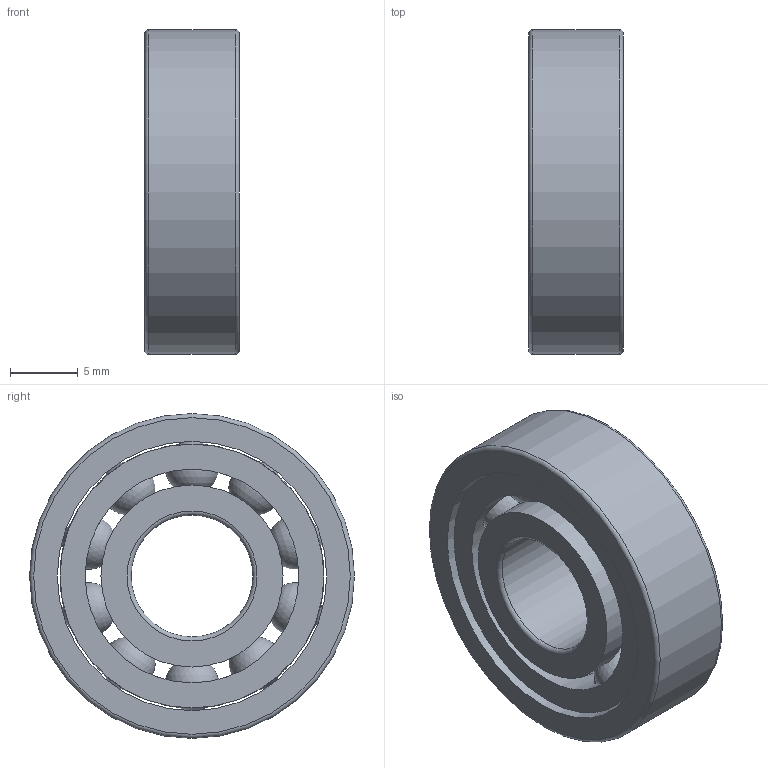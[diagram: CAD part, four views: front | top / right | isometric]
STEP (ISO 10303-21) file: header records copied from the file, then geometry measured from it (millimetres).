
FILE_DESCRIPTION(/* description */ (''),/* implementation_level */ '2;1');
FILE_NAME(/* name */ 'S_609_TA.step',/* time_stamp */ '2013-03-06T14:43:07+01:00',/* author */ ('Marian'),/* organization */ ('GMN'),/* preprocessor_version */ 'ST-DEVELOPER v11',/* originating_system */ 'SIEMENS UGS NX 6.0',/* authorisation */ '');
FILE_SCHEMA (('CONFIG_CONTROL_DESIGN'));
Length unit declared in the file: millimetre
Products named in the file (1): S_609_TA
Bounding box: 7 x 24 x 24 mm (x, y, z)
Volume: 2125.3 mm3; surface area: 3198.8 mm2
Topology: 13 solids, 13 shells, 40 faces, 98 edges, 62 vertices
Faces by surface type: cylinder 17, sphere 10, torus 6, plane 6, cone 1
Full cylindrical faces by diameter (mm): 4.169 x10, 9 x1, 13.45 x2, 15.799 x1, 19.5 x1, 19.9 x1, 24 x1
Entity records: 2038 total; most frequent: CARTESIAN_POINT 1271, DIRECTION 122, FACE_BOUND 90, EDGE_LOOP 80, ORIENTED_EDGE 80, AXIS2_PLACEMENT_3D 61, VERTEX_POINT 50, EDGE_CURVE 40
